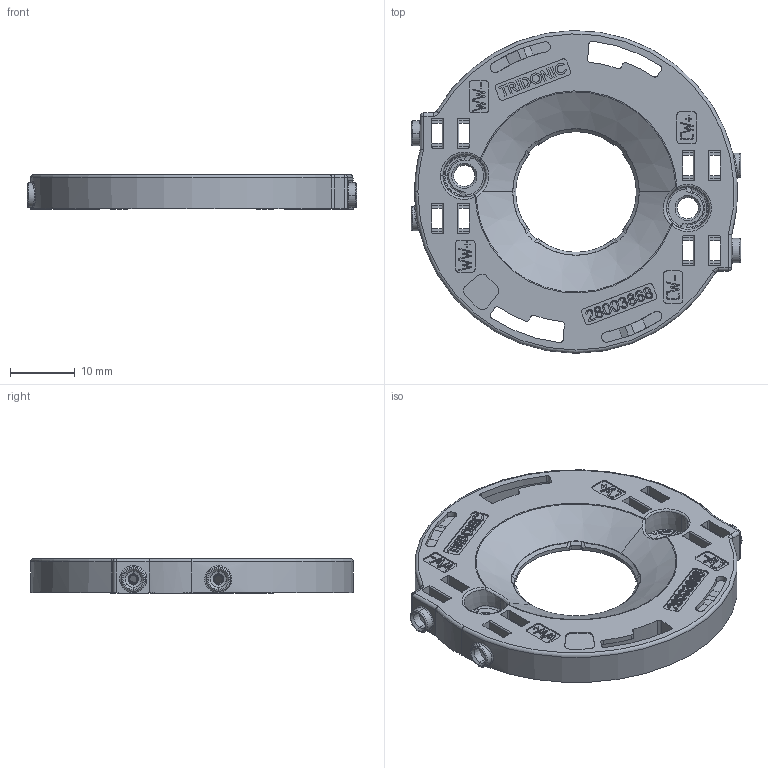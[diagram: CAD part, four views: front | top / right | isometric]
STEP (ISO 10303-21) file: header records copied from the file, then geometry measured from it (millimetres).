
FILE_DESCRIPTION (( 'STEP AP214' ), '1' );
FILE_NAME ('16208885_sle-tw-housing-d50-4t.STEP', '2021-06-16T08:41:21', ( '' ), ( '' ), 'SwSTEP 2.0', 'SolidWorks 2020', '' );
FILE_SCHEMA (( 'AUTOMOTIVE_DESIGN' ));
Length unit declared in the file: millimetre
Products named in the file (2): 01T-A9E-01__20210608075239; 16208885_sle-tw-housing-d50-4t
Assembly tree (1 placements, depth 2):
  16208885_sle-tw-housing-d50-4t
    01T-A9E-01__20210608075239
Bounding box: 51 x 50 x 5.42 mm (x, y, z)
Volume: 4427.8 mm3; surface area: 7149.6 mm2
Topology: 1 solids, 1 shells, 2225 faces, 5813 edges, 3675 vertices
Faces by surface type: plane 1000, bspline 515, cylinder 368, cone 169, torus 141, sphere 32
Entity records: 80097 total; most frequent: CARTESIAN_POINT 31081, ORIENTED_EDGE 11594, DIRECTION 8228, EDGE_CURVE 5797, VERTEX_POINT 3675, AXIS2_PLACEMENT_3D 2905, VECTOR 2418, LINE 2418
